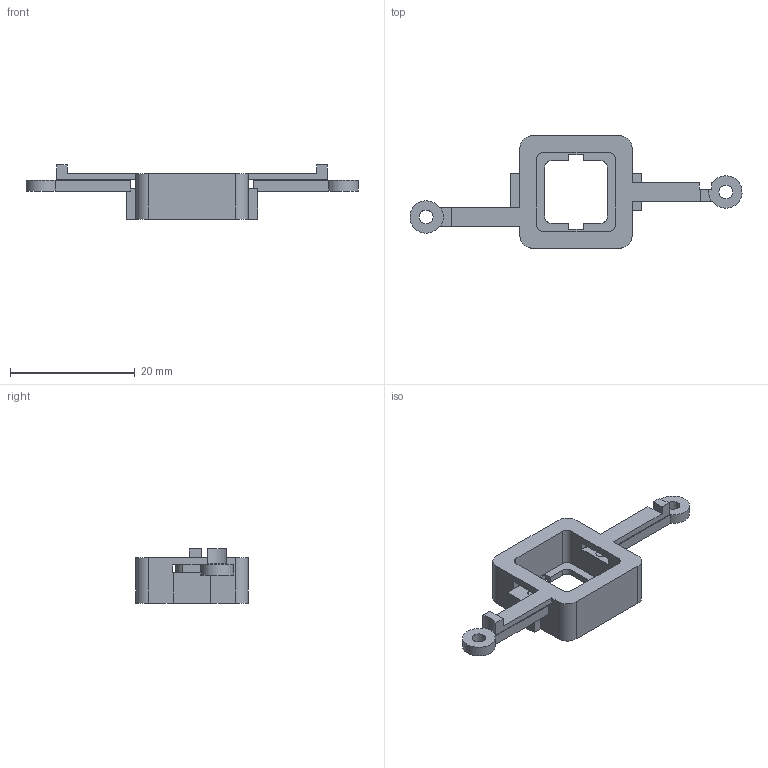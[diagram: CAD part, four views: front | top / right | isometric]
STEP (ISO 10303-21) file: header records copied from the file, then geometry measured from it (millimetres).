
FILE_DESCRIPTION(('Open CASCADE Model'),'2;1');
FILE_NAME('Open CASCADE Shape Model','2026-09-09T12:58:10',('Author'),( 'Open CASCADE'),'Open CASCADE STEP processor 7.9','Open CASCADE 7.9' ,'Unknown');
FILE_SCHEMA(('AUTOMOTIVE_DESIGN { 1 0 10303 214 1 1 1 1 }'));
Length unit declared in the file: millimetre
Products named in the file (1): Open CASCADE STEP translator 7.9 13
Bounding box: 53.18 x 18 x 8.7 mm (x, y, z)
Volume: 1544.8 mm3; surface area: 1977.9 mm2
Topology: 1 solids, 1 shells, 89 faces, 258 edges, 172 vertices
Faces by surface type: plane 69, cylinder 20
Full cylindrical faces by diameter (mm): 1.7 x2, 2.2 x2
Entity records: 6290 total; most frequent: CARTESIAN_POINT 1141, DIRECTION 944, LINE 655, VECTOR 655, ORIENTED_EDGE 516, PCURVE 516, DEFINITIONAL_REPRESENTATION 516, EDGE_CURVE 258
